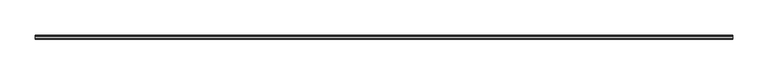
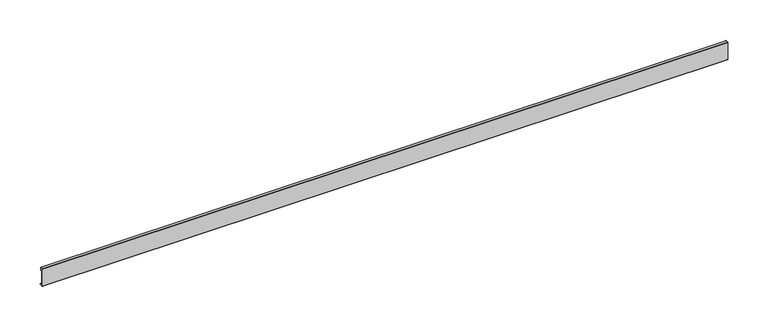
"""IFC4 building model written with IfcOpenShell, lengths in millimetres: proxy geometry, Weiku - Montante - Capa de folha 02.3.02.406 : Weiku - Montante - Capa de folha 02.3.02.406."""

import ifcopenshell
import ifcopenshell.guid

model = None  # the IFC model being written
_history = None  # IfcOwnerHistory: only IFC2X3 demands one
_inside = {}  # id of a spatial element -> (the spatial element, [elements in it])
_under = {}  # id of a project, library or spatial element -> (it, [spatial elements below it])
_declared = {}  # id of a project -> (the project, [libraries it declares])
_typed = {}  # id of a type object -> (the type object, [elements of that type])
_made_of = {}  # id of a material, layer set ... -> (it, [elements and type objects made of it])


def new_model(schema):
    """Start an empty IFC model of exactly this schema.

    Asked for "IFC4X3", IfcOpenShell would pick the latest addendum, in which some entities
    have other attributes; the version numbers below select the first issue.
    IFC2X3 requires an IfcOwnerHistory on every rooted entity: one is made here for all.
    """
    global model, _history
    if schema == "IFC4X3":
        model = ifcopenshell.file(schema_version=(4, 3, 0, 0))
    else:
        model = ifcopenshell.file(schema=schema)
    _inside.clear()
    _under.clear()
    _declared.clear()
    _typed.clear()
    _made_of.clear()
    _history = None
    if model.schema == "IFC2X3":
        org = make("IfcOrganization", Name="unknown")
        user = make(
            "IfcPersonAndOrganization",
            ThePerson=make("IfcPerson", FamilyName="unknown"),
            TheOrganization=org,
        )
        app = make(
            "IfcApplication",
            ApplicationDeveloper=org,
            Version="unknown",
            ApplicationFullName="unknown",
            ApplicationIdentifier="unknown",
        )
        _history = make(
            "IfcOwnerHistory",
            OwningUser=user,
            OwningApplication=app,
            ChangeAction="ADDED",
            CreationDate=0,
        )
    return model


def make(cls, **values):
    """One entity of the class cls with the attributes given. An attribute that is None is left unset."""
    return model.create_entity(
        cls, **{name: value for name, value in values.items() if value is not None}
    )


def rooted(cls, **values):
    """An entity with a GlobalId (a new one), such as an element, a storey or a relation."""
    return make(cls, GlobalId=ifcopenshell.guid.new(), OwnerHistory=_history, **values)


def si_unit(unit_type, name, prefix=None):
    """IfcSIUnit, for example si_unit("LENGTHUNIT", "METRE", prefix="MILLI")."""
    return make("IfcSIUnit", UnitType=unit_type, Prefix=prefix, Name=name)


def assignment(units):
    """IfcUnitAssignment: the units of a project."""
    return None if units is None else make("IfcUnitAssignment", Units=units)


def point(xyz):
    """IfcCartesianPoint."""
    return None if xyz is None else make("IfcCartesianPoint", Coordinates=xyz)


def direction(xyz):
    """IfcDirection."""
    return None if xyz is None else make("IfcDirection", DirectionRatios=xyz)


def frame(location, z_axis=None, x_axis=None):
    """IfcAxis2Placement3D, a coordinate frame: its origin and axes. An axis left out is left unset."""
    return make(
        "IfcAxis2Placement3D",
        Location=point(location),
        Axis=direction(z_axis),
        RefDirection=direction(x_axis),
    )


def frame_2d(location, x_axis=None):
    """IfcAxis2Placement2D, a coordinate frame in the plane: its origin and x axis."""
    return make(
        "IfcAxis2Placement2D", Location=point(location), RefDirection=direction(x_axis)
    )


def origin():
    """The frame at (0, 0, 0) with its axes left unset."""
    return frame((0.0, 0.0, 0.0))


def place(relative_to, where):
    """IfcLocalPlacement: puts the frame where relative to a parent placement (None: the world)."""
    return make(
        "IfcLocalPlacement", PlacementRelTo=relative_to, RelativePlacement=where
    )


def context(
    kind, dimensions, precision=None, world=None, true_north=None, identifier=None
):
    """IfcGeometricRepresentationContext, for example the 3D "Model" context."""
    return make(
        "IfcGeometricRepresentationContext",
        ContextIdentifier=identifier,
        ContextType=kind,
        CoordinateSpaceDimension=dimensions,
        Precision=precision,
        WorldCoordinateSystem=world,
        TrueNorth=true_north,
    )


def project(units=None, contexts=None):
    """IfcProject with its units and contexts."""
    return rooted(
        "IfcProject",
        Name="project",
        RepresentationContexts=contexts,
        UnitsInContext=assignment(units),
    )


def spatial(cls, under=None, at=None, **own):
    """A site, building, storey or space (cls), placed at a placement, below another one or the project."""
    s = rooted(cls, ObjectPlacement=at, **own)
    if under is not None:
        _under.setdefault(under.id(), (under, []))[1].append(s)
    return s


def polyline(points):
    """IfcPolyline through the points."""
    return make("IfcPolyline", Points=[point(p) for p in points])


def circle_curve(where, radius):
    """IfcCircle in the frame where."""
    return make("IfcCircle", Position=where, Radius=radius)


def trimmed(basis, trim1, trim2, sense, master):
    """IfcTrimmedCurve: the piece of a basis curve between two trims."""
    return make(
        "IfcTrimmedCurve",
        BasisCurve=basis,
        Trim1=trim1,
        Trim2=trim2,
        SenseAgreement=sense,
        MasterRepresentation=master,
    )


def segment(curve, same_sense, transition):
    """IfcCompositeCurveSegment."""
    return make(
        "IfcCompositeCurveSegment",
        Transition=transition,
        SameSense=same_sense,
        ParentCurve=curve,
    )


def composite_curve(segments, self_intersect=None):
    """IfcCompositeCurve: segments joined end to end."""
    return make("IfcCompositeCurve", Segments=segments, SelfIntersect=self_intersect)


def outline(outer, holes=None, kind="AREA"):
    """IfcArbitraryClosedProfileDef: a profile drawn as a closed curve; with holes, ...WithVoids."""
    if holes is None:
        return make("IfcArbitraryClosedProfileDef", ProfileType=kind, OuterCurve=outer)
    return make(
        "IfcArbitraryProfileDefWithVoids",
        ProfileType=kind,
        OuterCurve=outer,
        InnerCurves=holes,
    )


def extrude(swept, where, along, depth):
    """IfcExtrudedAreaSolid: the profile swept, set in the frame where, extruded along a direction by depth."""
    return make(
        "IfcExtrudedAreaSolid",
        SweptArea=swept,
        Position=where,
        ExtrudedDirection=direction(along),
        Depth=depth,
    )


def shape(context_of_items, identifier, shape_type, items):
    """IfcShapeRepresentation: the items that make up one representation, for example the "Body"."""
    return make(
        "IfcShapeRepresentation",
        ContextOfItems=context_of_items,
        RepresentationIdentifier=identifier,
        RepresentationType=shape_type,
        Items=items,
    )


def source(mapping_origin, context_of_items, identifier, shape_type, items):
    """IfcRepresentationMap: a shape defined once, which mapped items show again and again."""
    return make(
        "IfcRepresentationMap",
        MappingOrigin=mapping_origin,
        MappedRepresentation=shape(context_of_items, identifier, shape_type, items),
    )


def transform(
    local_origin,
    x_axis=None,
    y_axis=None,
    z_axis=None,
    scale=None,
    scale2=None,
    scale3=None,
    uniform=True,
):
    """IfcCartesianTransformationOperator3D, or its non-uniform kind. x_axis, y_axis, z_axis: its Axis1, 2, 3."""
    if uniform:
        return make(
            "IfcCartesianTransformationOperator3D",
            Axis1=direction(x_axis),
            Axis2=direction(y_axis),
            LocalOrigin=point(local_origin),
            Scale=scale,
            Axis3=direction(z_axis),
        )
    return make(
        "IfcCartesianTransformationOperator3DnonUniform",
        Axis1=direction(x_axis),
        Axis2=direction(y_axis),
        LocalOrigin=point(local_origin),
        Scale=scale,
        Axis3=direction(z_axis),
        Scale2=scale2,
        Scale3=scale3,
    )


def mapped(mapping_source, mapping_target):
    """IfcMappedItem: shows the shape of a source again, moved by a transform."""
    return make(
        "IfcMappedItem", MappingSource=mapping_source, MappingTarget=mapping_target
    )


def made_of(thing, what):
    """Note that an element or type object is made of a material, layer set ...; save() writes the relation."""
    if what is not None:
        _made_of.setdefault(what.id(), (what, []))[1].append(thing)
    return thing


def element(
    cls,
    number,
    at=None,
    inside=None,
    cuts=None,
    type_object=None,
    material=None,
    context=None,
    identifier="Body",
    shape_type=None,
    held_by="IfcProductDefinitionShape",
    body=None,
    shapes=None,
    **own,
):
    """One element of the class cls, such as IfcWall. Its Tag is "e" and its number.

    at: its placement. inside: the storey or other place that contains it. cuts: it is an
    opening in that element (IfcRelVoidsElement). A single representation is given by context,
    identifier, shape_type and body (its items); several are given by shapes. held_by: the class
    of the entity that holds the representations. save() writes the other relations.
    """
    e = rooted(cls, Tag="e%d" % number, ObjectPlacement=at, **own)
    if body is not None:
        shapes = [shape(context, identifier, shape_type, body)]
    if shapes is not None:
        e.Representation = make(held_by, Representations=shapes)
    if inside is not None:
        _inside.setdefault(inside.id(), (inside, []))[1].append(e)
    if cuts is not None:
        rooted(
            "IfcRelVoidsElement", RelatingBuildingElement=cuts, RelatedOpeningElement=e
        )
    if type_object is not None:
        _typed.setdefault(type_object.id(), (type_object, []))[1].append(e)
    return made_of(e, material)


def aggregate(whole, parts):
    """IfcRelAggregates: a whole, such as a stair, and the parts it consists of."""
    return rooted("IfcRelAggregates", RelatingObject=whole, RelatedObjects=parts)


def save(model, path):
    """Write the relations noted so far, then the file.

    IfcRelAggregates (storeys below a building ...), IfcRelContainedInSpatialStructure (elements
    in a storey), IfcRelDefinesByType, IfcRelAssociatesMaterial and IfcRelDeclares: one each for
    every whole, place, type object, material and project.
    """
    for whole, parts in _under.values():
        aggregate(whole, parts)
    for where, things in _inside.values():
        rooted(
            "IfcRelContainedInSpatialStructure",
            RelatedElements=things,
            RelatingStructure=where,
        )
    for kind, things in _typed.values():
        rooted("IfcRelDefinesByType", RelatedObjects=things, RelatingType=kind)
    for what, things in _made_of.values():
        rooted("IfcRelAssociatesMaterial", RelatedObjects=things, RelatingMaterial=what)
    for by, libraries in _declared.values():
        rooted("IfcRelDeclares", RelatingContext=by, RelatedDefinitions=libraries)
    model.write(path)


def generic_models_a4c05c48(model_context):
    return source(origin(), model_context, "Body", "SweptSolid", [
        extrude(outline(composite_curve([segment(polyline([(4.6421508, 2.2715508), (5.3603515, 1.056104)]), True, "CONTINUOUS"), segment(trimmed(circle_curve(frame_2d((4.7576991, 0.7)), 0.7), [point((5.3603515, 1.056104))], [point((4.7576991, 0.0))], False, "CARTESIAN"), True, "CONTINUOUS"), segment(polyline([(4.7576991, 0.0), (0.5, 0.0)]), True, "CONTINUOUS"), segment(trimmed(circle_curve(frame_2d((0.5, 0.5)), 0.5), [point((0.5, 0.0))], [point((0.0, 0.5))], False, "CARTESIAN"), True, "CONTINUOUS"), segment(polyline([(0.0, 0.5), (0.0, 26.2)]), True, "CONTINUOUS"), segment(trimmed(circle_curve(frame_2d((0.5, 26.2)), 0.5), [point((0.0, 26.2))], [point((0.5, 26.7))], False, "CARTESIAN"), True, "CONTINUOUS"), segment(polyline([(0.5, 26.7), (3.78, 26.7)]), True, "CONTINUOUS"), segment(trimmed(circle_curve(frame_2d((3.78, 26.2)), 0.5), [point((3.78, 26.7))], [point((4.28, 26.2))], False, "CARTESIAN"), True, "CONTINUOUS"), segment(polyline([(4.28, 26.2), (4.28, 22.3396), (3.3063, 22.3396), (3.3063, 25.684), (1.6933, 25.684), (1.6933, 1.016), (3.3866, 1.016), (4.6421508, 2.2715508)]), True, "CONTINUOUS")], self_intersect=False)), frame((-491.825, 0.0, 0.0), z_axis=(1.0, 0.0, 0.0), x_axis=(0.0, 1.0, 0.0)), (0.0, 0.0, 1.0), 983.65),
    ])


if __name__ == "__main__":
    model = new_model("IFC4")
    model_context = context("Model", 3, world=origin())
    ifc_project = project(units=[si_unit("LENGTHUNIT", "METRE", prefix="MILLI")], contexts=[model_context])
    site = spatial("IfcSite", under=ifc_project)
    building = spatial("IfcBuilding", under=site)
    placement = place(None, origin())
    generic_models_shape = generic_models_a4c05c48(model_context)
    element("IfcBuildingElementProxy", 1, Name="Weiku - Montante - Capa de folha 02.3.02.406 : Weiku - Montante - Capa de folha 02.3.02.406", ObjectType="Weiku - Montante - Capa de folha 02.3.02.406 : Weiku - Montante - Capa de folha 02.3.02.406", at=placement, inside=building, context=model_context, shape_type="MappedRepresentation", body=[
        mapped(generic_models_shape, transform((0.0, 0.0, 0.0), x_axis=(1.0, 0.0, 0.0), y_axis=(0.0, 1.0, 0.0), z_axis=(0.0, 0.0, 1.0))),
    ])
    save(model, "model.ifc")
